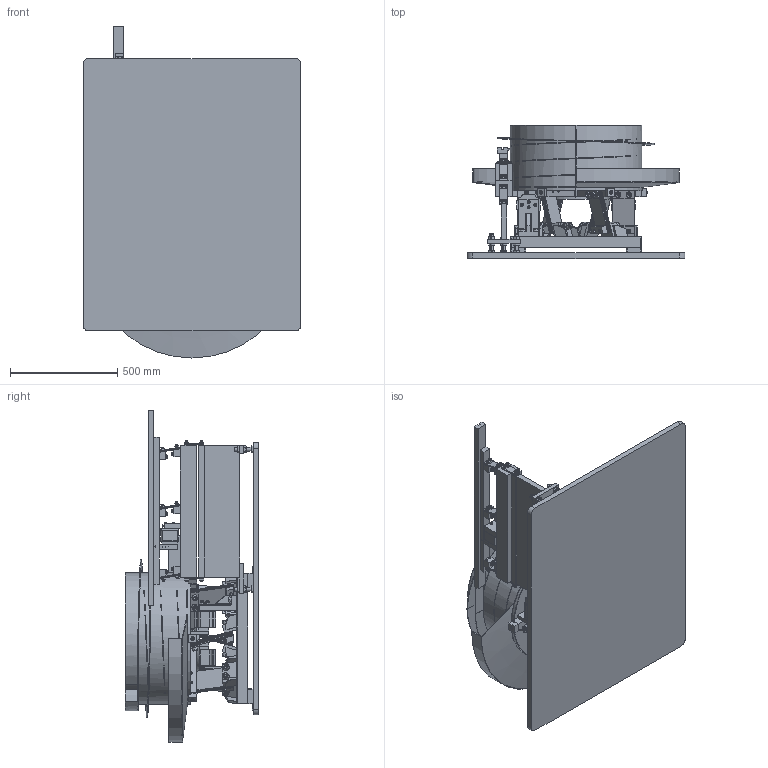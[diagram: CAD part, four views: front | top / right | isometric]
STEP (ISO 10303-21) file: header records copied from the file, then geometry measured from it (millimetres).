
FILE_DESCRIPTION (( 'STEP AP203' ), '1' );
FILE_NAME ('CCW24B-36T-P.STEP', '2014-01-10T13:12:34', ( '' ), ( '' ), 'SwSTEP 2.0', 'SolidWorks 2013', '' );
FILE_SCHEMA (( 'CONFIG_CONTROL_DESIGN' ));
Length unit declared in the file: inch
Products named in the file (30): socket head cap screw_ai_HX-SHCS 0.3125-18x1x1-N; socket head cap screw_ai_HX-SHCS 0.3125-18x3.75x1.125-N; S-I-ADJ-FOOT-LEVELER; 24-CCW-BASE-DRIVE; S-I-SPRING-CLAMP; socket head cap screw_ai_HX-SHCS 0.25-20x1.375x1.375-N; S-I-27-DRIVE BAR; S-I-FRONT-FOOT; S-I-LAM-WELDMENT; S-I-27-RISER PLATE_6.5"; S-I-27-MASS BAR; COIL-POTTING; S-I-SPRING-SPACER; socket head cap screw_ai_HX-SHCS 0.25-20x1.5x1-N; socket head cap screw_ai_HX-SHCS 0.3125-18x1.125x1.125-N; MFS PLATE_24"; S-I-COIL-BLOCK; S-I-SPRING; S-I-LAM-MOUNTING-BLOCK; CCW24B-36T-P; MFS TRACK_36"; S-I-REAR-FOOT; S-I-27-SUB PLATE; S-1-E-LAM; hex jam nut_ai_HJNUT 0.7500-16-D-N; hex washer screw_ai_IN-HWMS 0.375-16x2x1.5-N; CCW BOWL_24"; MFS-S-I-27 INLINE_6.5; S-1-SPRING BLOCK; S-I-COIL
Assembly tree (98 placements, depth 4):
  CCW24B-36T-P
    CCW BOWL_24"
    MFS PLATE_24"
    MFS TRACK_36"
    MFS-S-I-27 INLINE_6.5
      S-I-27-SUB PLATE
      S-I-27-DRIVE BAR
      S-I-27-MASS BAR
      S-I-SPRING-SPACER  x14
      S-I-SPRING  x10
      S-I-SPRING-CLAMP  x10
      S-1-SPRING BLOCK  x6
      S-I-COIL-BLOCK
      S-I-COIL
        COIL-POTTING
        S-1-E-LAM
      S-I-LAM-MOUNTING-BLOCK
      S-I-LAM-WELDMENT
      S-I-27-RISER PLATE_6.5"
      S-I-REAR-FOOT
      S-I-FRONT-FOOT
      S-I-ADJ-FOOT-LEVELER  x3
      hex jam nut_ai_HJNUT 0.7500-16-D-N  x6
      socket head cap screw_ai_HX-SHCS 0.3125-18x1x1-N  x8
      socket head cap screw_ai_HX-SHCS 0.25-20x1.375x1.375-N  x2
      socket head cap screw_ai_HX-SHCS 0.3125-18x3.75x1.125-N  x2
      socket head cap screw_ai_HX-SHCS 0.25-20x1.5x1-N  x2
      hex washer screw_ai_IN-HWMS 0.375-16x2x1.5-N  x6
      socket head cap screw_ai_HX-SHCS 0.3125-18x1.125x1.125-N  x12
    24-CCW-BASE-DRIVE
Bounding box: 1016 x 620.76 x 1549.4 mm (x, y, z)
Volume: 47997024.3 mm3; surface area: 10471953 mm2
Topology: 95 solids, 303 shells, 3214 faces, 8725 edges, 5731 vertices
Faces by surface type: plane 1742, cylinder 880, cone 509, torus 64, sphere 10, bspline 9
Entity records: 73564 total; most frequent: CARTESIAN_POINT 15355, DIRECTION 11613, ORIENTED_EDGE 9374, EDGE_CURVE 5759, AXIS2_PLACEMENT_3D 4002, VERTEX_POINT 3998, LINE 3609, VECTOR 3609
